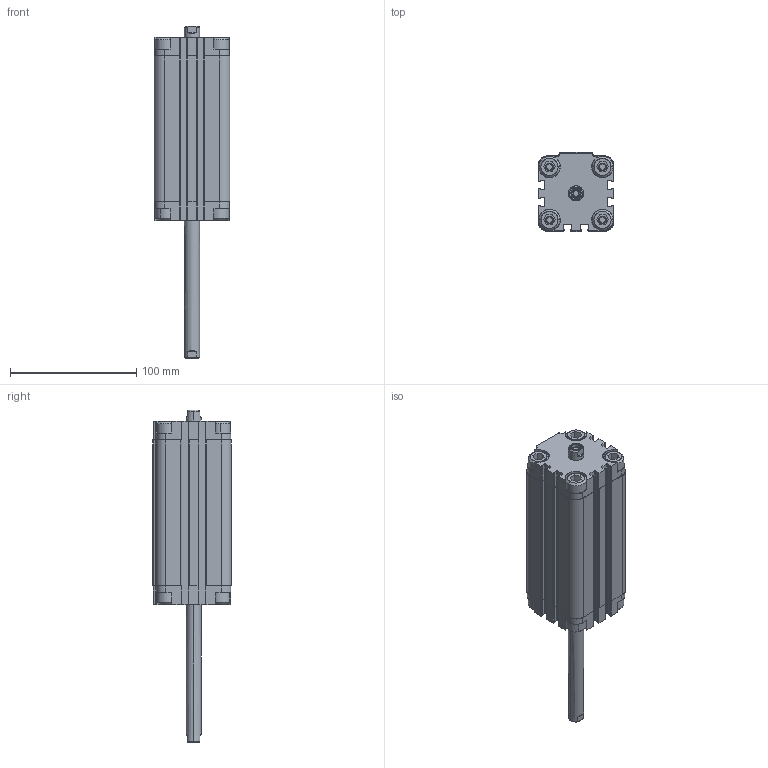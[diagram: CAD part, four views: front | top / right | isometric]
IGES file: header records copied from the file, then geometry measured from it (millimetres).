
Start section: SolidWorks IGES file using analytic representation for surfaces
Global section: file name: K:\Disegni Esecutivi\Cilindri\2_DISEGNI_cilindri_in_produzione\5_Cilindri Compatti\complessivicompatti\QJ\QJ040\QJ040parti\QJ040_IGES\QJ0400100A.igs; native system: SolidWorks 2011; preprocessor: SolidWorks 2011; author: Cad01; date: 110922.102450; units: millimetre
Bounding box: 60 x 62.5 x 263 mm (x, y, z)
Surface area: 63153.2 mm2 (no closed solid volume)
Topology: 0 solids, 0 shells, 603 faces, 6144 edges, 6140 vertices
Faces by surface type: bspline 325, revolution 278
